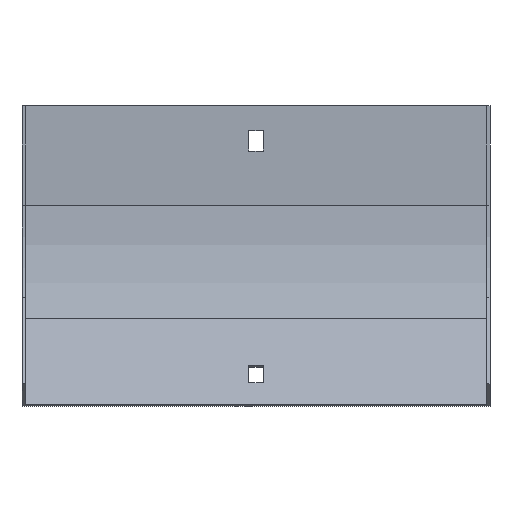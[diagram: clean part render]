
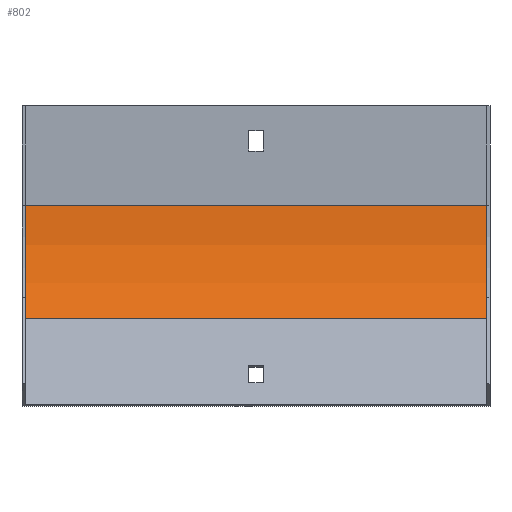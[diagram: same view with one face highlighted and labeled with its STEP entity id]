
A CAD part, front view. The second image highlights one B-rep face of the part: STEP entity #802.
In plain terms, the highlighted cylindrical face has radius 100 mm (diameter 200 mm), a partial arc.
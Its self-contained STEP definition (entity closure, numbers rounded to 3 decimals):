
#1 = VERTEX_POINT ( 'NONE', #775 ) ;
#14 = EDGE_CURVE ( 'NONE', #385, #1, #743, .T. ) ;
#51 = CYLINDRICAL_SURFACE ( 'NONE', #472, 100. ) ;
#57 = DIRECTION ( 'NONE',  ( 0., 0., 1. ) ) ;
#58 = ORIENTED_EDGE ( 'NONE', *, *, #845, .F. ) ;
#95 = CARTESIAN_POINT ( 'NONE',  ( 103.5, -101.5, -44. ) ) ;
#121 = EDGE_CURVE ( 'NONE', #385, #704, #224, .T. ) ;
#136 = VERTEX_POINT ( 'NONE', #418 ) ;
#176 = ORIENTED_EDGE ( 'NONE', *, *, #14, .T. ) ;
#190 = AXIS2_PLACEMENT_3D ( 'NONE', #721, #659, #57 ) ;
#224 = LINE ( 'NONE', #554, #384 ) ;
#322 = DIRECTION ( 'NONE',  ( 0., 0., 1. ) ) ;
#324 = AXIS2_PLACEMENT_3D ( 'NONE', #848, #697, #369 ) ;
#345 = CARTESIAN_POINT ( 'NONE',  ( 103.5, -1.5, -44. ) ) ;
#369 = DIRECTION ( 'NONE',  ( 0., 0., 1. ) ) ;
#384 = VECTOR ( 'NONE', #498, 1000. ) ;
#385 = VERTEX_POINT ( 'NONE', #568 ) ;
#393 = FACE_OUTER_BOUND ( 'NONE', #433, .T. ) ;
#418 = CARTESIAN_POINT ( 'NONE',  ( -102., -1.5, -44. ) ) ;
#433 = EDGE_LOOP ( 'NONE', ( #58, #648, #176, #644 ) ) ;
#472 = AXIS2_PLACEMENT_3D ( 'NONE', #95, #859, #322 ) ;
#485 = CARTESIAN_POINT ( 'NONE',  ( -102., -14.897, -94. ) ) ;
#498 = DIRECTION ( 'NONE',  ( -1., 0., 0. ) ) ;
#547 = DIRECTION ( 'NONE',  ( -1., 0., 0. ) ) ;
#554 = CARTESIAN_POINT ( 'NONE',  ( 103.5, -14.897, -94. ) ) ;
#568 = CARTESIAN_POINT ( 'NONE',  ( 102., -14.897, -94. ) ) ;
#606 = VECTOR ( 'NONE', #547, 1000. ) ;
#644 = ORIENTED_EDGE ( 'NONE', *, *, #711, .T. ) ;
#648 = ORIENTED_EDGE ( 'NONE', *, *, #121, .F. ) ;
#659 = DIRECTION ( 'NONE',  ( 1., 0., 0. ) ) ;
#679 = LINE ( 'NONE', #345, #606 ) ;
#697 = DIRECTION ( 'NONE',  ( 1., 0., 0. ) ) ;
#704 = VERTEX_POINT ( 'NONE', #485 ) ;
#711 = EDGE_CURVE ( 'NONE', #1, #136, #679, .T. ) ;
#721 = CARTESIAN_POINT ( 'NONE',  ( -102., -101.5, -44. ) ) ;
#733 = CIRCLE ( 'NONE', #190, 100. ) ;
#743 = CIRCLE ( 'NONE', #324, 100. ) ;
#775 = CARTESIAN_POINT ( 'NONE',  ( 102., -1.5, -44. ) ) ;
#802 = ADVANCED_FACE ( 'NONE', ( #393 ), #51, .F. ) ;
#845 = EDGE_CURVE ( 'NONE', #704, #136, #733, .T. ) ;
#848 = CARTESIAN_POINT ( 'NONE',  ( 102., -101.5, -44. ) ) ;
#859 = DIRECTION ( 'NONE',  ( -1., 0., 0. ) ) ;
